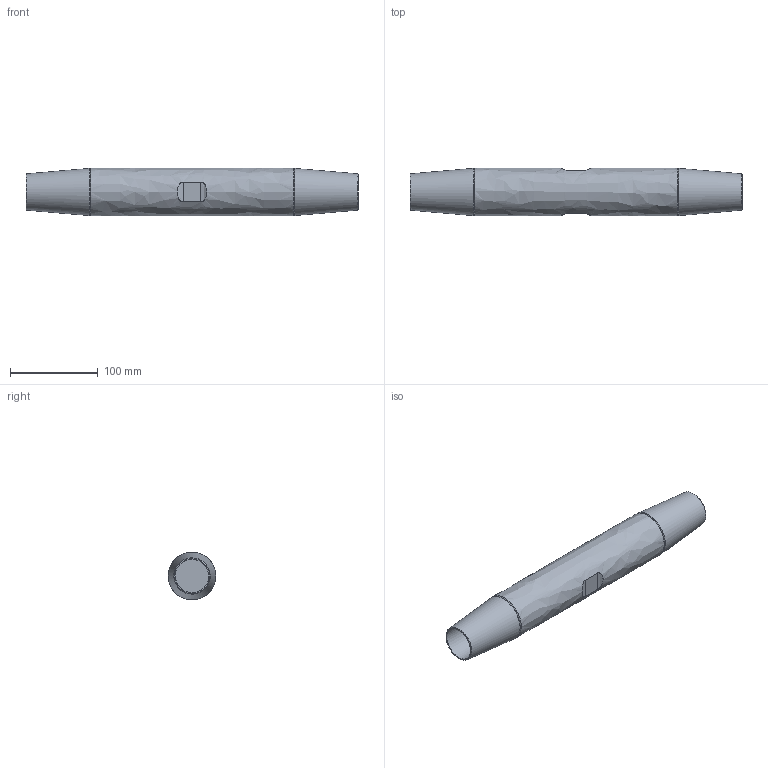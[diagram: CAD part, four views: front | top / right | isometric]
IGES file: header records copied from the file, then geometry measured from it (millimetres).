
Global section: file name: 520-036-MUF; native system: Autodesk Inventor 2016; preprocessor: unknown; author: Administrator; date: 20200630.131653; units: centimetre
Bounding box: 378 x 54 x 54 mm (x, y, z)
Volume: 665786.7 mm3; surface area: 77275.5 mm2
Topology: 1 solids, 1 shells, 21 faces, 52 edges, 36 vertices
Faces by surface type: bspline 21
